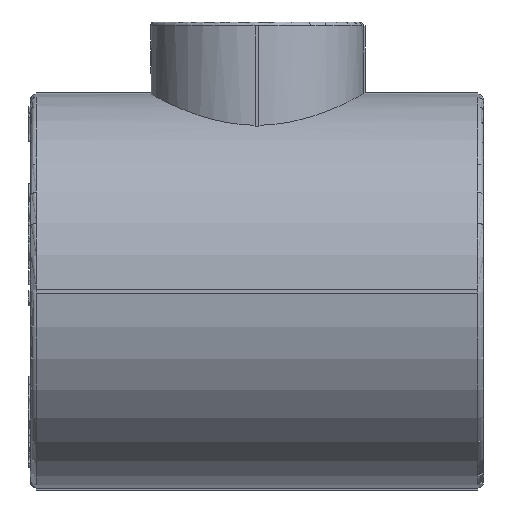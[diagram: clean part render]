
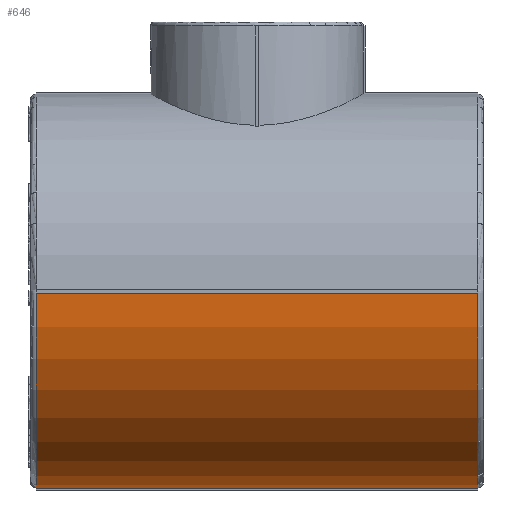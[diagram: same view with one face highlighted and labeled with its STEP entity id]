
A CAD part, left-side view. The second image highlights one B-rep face of the part: STEP entity #646.
In plain terms, the highlighted cylindrical face has radius 50 mm (diameter 100 mm), a partial arc.
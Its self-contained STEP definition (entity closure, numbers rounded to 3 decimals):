
#646=ADVANCED_FACE('',(#5033),#5035,.T.);
#5033=FACE_BOUND('',#5034,.T.);
#5034=EDGE_LOOP('',(#12806,#12807,#12808,#12809));
#5035=CYLINDRICAL_SURFACE('',#5036,50.);
#5036=AXIS2_PLACEMENT_3D('',#5037,#5038,#5039);
#5037=CARTESIAN_POINT('',(0.,-57.5,0.));
#5038=DIRECTION('',(0.,1.,0.));
#5039=DIRECTION('',(-1.,0.,0.));
#12806=ORIENTED_EDGE('',*,*,#18202,.F.);
#12807=ORIENTED_EDGE('',*,*,#18203,.T.);
#12808=ORIENTED_EDGE('',*,*,#18204,.F.);
#12809=ORIENTED_EDGE('',*,*,#18165,.F.);
#18165=EDGE_CURVE('',#22360,#22362,#22363,.T.);
#18202=EDGE_CURVE('',#22429,#22360,#22430,.T.);
#18203=EDGE_CURVE('',#22429,#22431,#22432,.T.);
#18204=EDGE_CURVE('',#22362,#22431,#22433,.F.);
#22360=VERTEX_POINT('',#30826);
#22362=VERTEX_POINT('',#30831);
#22363=CIRCLE('',#30832,50.);
#22429=VERTEX_POINT('',#31210);
#22430=LINE('',#31211,#31212);
#22431=VERTEX_POINT('',#31214);
#22432=CIRCLE('',#31215,50.);
#22433=LINE('',#31219,#31220);
#30826=CARTESIAN_POINT('',(-0.5,56.,-49.997));
#30831=CARTESIAN_POINT('',(-49.997,56.,-0.5));
#30832=AXIS2_PLACEMENT_3D('',#30833,#30834,#30835);
#30833=CARTESIAN_POINT('',(0.,56.,0.));
#30834=DIRECTION('',(0.,1.,0.));
#30835=DIRECTION('',(-0.01,0.,-1.));
#31210=CARTESIAN_POINT('',(-0.5,-56.,-49.997));
#31211=CARTESIAN_POINT('',(-0.5,-56.,-49.997));
#31212=VECTOR('',#31213,1.);
#31213=DIRECTION('',(0.,1.,0.));
#31214=CARTESIAN_POINT('',(-49.997,-56.,-0.5));
#31215=AXIS2_PLACEMENT_3D('',#31216,#31217,#31218);
#31216=CARTESIAN_POINT('',(0.,-56.,0.));
#31217=DIRECTION('',(0.,1.,0.));
#31218=DIRECTION('',(-0.01,0.,-1.));
#31219=CARTESIAN_POINT('',(-49.997,-56.,-0.5));
#31220=VECTOR('',#31221,1.);
#31221=DIRECTION('',(0.,1.,0.));
